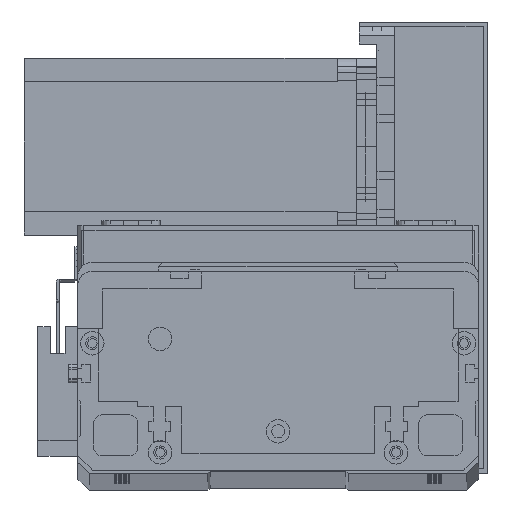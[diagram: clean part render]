
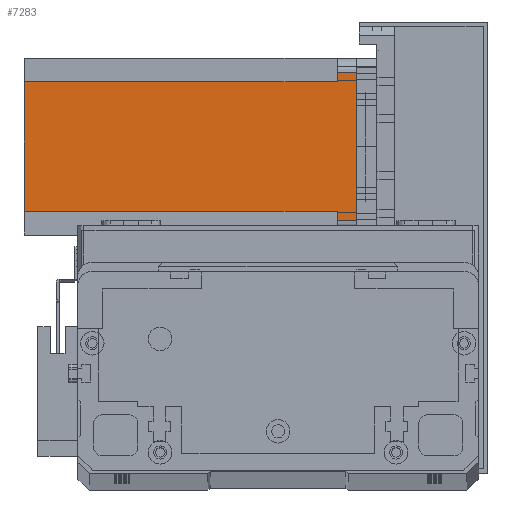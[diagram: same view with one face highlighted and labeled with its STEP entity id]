
A CAD part, top view. The second image highlights one B-rep face of the part: STEP entity #7283.
In plain terms, the highlighted planar face has unit normal (0, 0, 1) as drawn and (0, 1, 0) by its records, which use the part's own axes.
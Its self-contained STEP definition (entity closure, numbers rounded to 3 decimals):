
#1292 = EDGE_CURVE ( 'NONE', #22837, #8658, #8212, .T. ) ;
#1377 = FACE_OUTER_BOUND ( 'NONE', #2056, .T. ) ;
#1677 = CARTESIAN_POINT ( 'NONE',  ( 5., 60., -112.5 ) ) ;
#1779 = EDGE_CURVE ( 'NONE', #16057, #8658, #25941, .T. ) ;
#2056 = EDGE_LOOP ( 'NONE', ( #15815, #4591, #5114, #14731, #20116, #5124, #30418, #3783 ) ) ;
#3303 = LINE ( 'NONE', #10746, #28361 ) ;
#3573 = DIRECTION ( 'NONE',  ( 0., 0., -1. ) ) ;
#3599 = DIRECTION ( 'NONE',  ( -1., 0., 0. ) ) ;
#3630 = CARTESIAN_POINT ( 'NONE',  ( 8., 60., -112.5 ) ) ;
#3783 = ORIENTED_EDGE ( 'NONE', *, *, #30153, .T. ) ;
#4117 = CARTESIAN_POINT ( 'NONE',  ( 0., 60., -112.5 ) ) ;
#4173 = VECTOR ( 'NONE', #3599, 1000. ) ;
#4591 = ORIENTED_EDGE ( 'NONE', *, *, #25515, .T. ) ;
#5029 = CARTESIAN_POINT ( 'NONE',  ( 5., 60., 0. ) ) ;
#5114 = ORIENTED_EDGE ( 'NONE', *, *, #15826, .F. ) ;
#5124 = ORIENTED_EDGE ( 'NONE', *, *, #1779, .F. ) ;
#5145 = DIRECTION ( 'NONE',  ( -1., 0., 0. ) ) ;
#5619 = CARTESIAN_POINT ( 'NONE',  ( 0., 60., -112.5 ) ) ;
#6759 = CARTESIAN_POINT ( 'NONE',  ( 8., 60., -6.5 ) ) ;
#7283 = ADVANCED_FACE ( 'NONE', ( #1377 ), #30373, .T. ) ;
#8148 = VERTEX_POINT ( 'NONE', #27257 ) ;
#8212 = LINE ( 'NONE', #5619, #13948 ) ;
#8356 = VERTEX_POINT ( 'NONE', #24978 ) ;
#8658 = VERTEX_POINT ( 'NONE', #21298 ) ;
#8705 = CARTESIAN_POINT ( 'NONE',  ( 8., 60., -6.5 ) ) ;
#9718 = VECTOR ( 'NONE', #30934, 1000. ) ;
#9829 = CARTESIAN_POINT ( 'NONE',  ( 55., 60., 0. ) ) ;
#10740 = DIRECTION ( 'NONE',  ( 1., 0., 0. ) ) ;
#10746 = CARTESIAN_POINT ( 'NONE',  ( 52., 60., -6.5 ) ) ;
#12602 = CARTESIAN_POINT ( 'NONE',  ( 52., 60., -112.5 ) ) ;
#12800 = DIRECTION ( 'NONE',  ( -1., 0., 0. ) ) ;
#12836 = CARTESIAN_POINT ( 'NONE',  ( 0., 60., 0. ) ) ;
#13913 = VECTOR ( 'NONE', #29501, 1000. ) ;
#13948 = VECTOR ( 'NONE', #5145, 1000. ) ;
#14077 = DIRECTION ( 'NONE',  ( 0., 0., 1. ) ) ;
#14368 = VERTEX_POINT ( 'NONE', #5029 ) ;
#14515 = EDGE_CURVE ( 'NONE', #22837, #31395, #21769, .T. ) ;
#14731 = ORIENTED_EDGE ( 'NONE', *, *, #14515, .F. ) ;
#14773 = VECTOR ( 'NONE', #14077, 1000. ) ;
#15540 = LINE ( 'NONE', #1677, #14773 ) ;
#15678 = EDGE_CURVE ( 'NONE', #27453, #14368, #19461, .T. ) ;
#15815 = ORIENTED_EDGE ( 'NONE', *, *, #15678, .F. ) ;
#15826 = EDGE_CURVE ( 'NONE', #31395, #8148, #3303, .T. ) ;
#16057 = VERTEX_POINT ( 'NONE', #6759 ) ;
#16385 = VECTOR ( 'NONE', #3573, 1000. ) ;
#18050 = AXIS2_PLACEMENT_3D ( 'NONE', #4117, #30271, #28576 ) ;
#19461 = LINE ( 'NONE', #12836, #31232 ) ;
#20116 = ORIENTED_EDGE ( 'NONE', *, *, #1292, .T. ) ;
#21298 = CARTESIAN_POINT ( 'NONE',  ( 8., 60., -112.5 ) ) ;
#21769 = LINE ( 'NONE', #30944, #9718 ) ;
#22786 = LINE ( 'NONE', #23061, #16385 ) ;
#22837 = VERTEX_POINT ( 'NONE', #12602 ) ;
#23061 = CARTESIAN_POINT ( 'NONE',  ( 55., 60., -112.5 ) ) ;
#24411 = LINE ( 'NONE', #8705, #4173 ) ;
#24978 = CARTESIAN_POINT ( 'NONE',  ( 5., 60., -6.5 ) ) ;
#25515 = EDGE_CURVE ( 'NONE', #27453, #8148, #22786, .T. ) ;
#25941 = LINE ( 'NONE', #3630, #13913 ) ;
#27005 = CARTESIAN_POINT ( 'NONE',  ( 52., 60., -6.5 ) ) ;
#27257 = CARTESIAN_POINT ( 'NONE',  ( 55., 60., -6.5 ) ) ;
#27453 = VERTEX_POINT ( 'NONE', #9829 ) ;
#28361 = VECTOR ( 'NONE', #10740, 1000. ) ;
#28576 = DIRECTION ( 'NONE',  ( 0., 0., 1. ) ) ;
#29373 = EDGE_CURVE ( 'NONE', #16057, #8356, #24411, .T. ) ;
#29501 = DIRECTION ( 'NONE',  ( 0., 0., -1. ) ) ;
#30153 = EDGE_CURVE ( 'NONE', #8356, #14368, #15540, .T. ) ;
#30271 = DIRECTION ( 'NONE',  ( 0., 1., 0. ) ) ;
#30373 = PLANE ( 'NONE',  #18050 ) ;
#30418 = ORIENTED_EDGE ( 'NONE', *, *, #29373, .T. ) ;
#30934 = DIRECTION ( 'NONE',  ( 0., 0., 1. ) ) ;
#30944 = CARTESIAN_POINT ( 'NONE',  ( 52., 60., -112.5 ) ) ;
#31232 = VECTOR ( 'NONE', #12800, 1000. ) ;
#31395 = VERTEX_POINT ( 'NONE', #27005 ) ;
